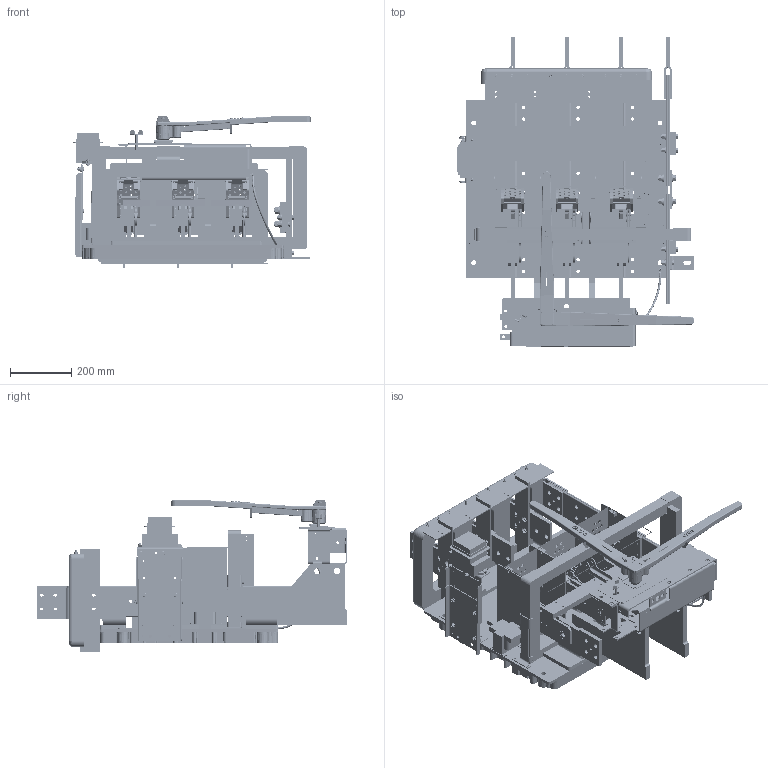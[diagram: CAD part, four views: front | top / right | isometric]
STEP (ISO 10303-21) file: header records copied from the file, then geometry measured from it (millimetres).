
FILE_DESCRIPTION(/* description */ (''),/* implementation_level */ '2;1');
FILE_NAME(/* name */ 'H:\switches\3d-templates\catalog-switches-iges-files\CATALOG-VLB3410AG60.stp',/* time_stamp */ '2022-03-15T16:02:12-05:00',/* author */ ('MKingston'),/* organization */ (''),/* preprocessor_version */ 'ST-DEVELOPER v18.1',/* originating_system */ 'Autodesk Inventor 2022',/* authorisation */ '');
FILE_SCHEMA (('AUTOMOTIVE_DESIGN { 1 0 10303 214 3 1 1 }'));
Products named in the file (108): catalog-vlb3410; 277-bf; 669-DB; 669-EB; 669-cb; CATALOG-57-qj-arc-chute-assy; 50-QLX; 50-QRX; 363-da; 363-da_MIR; 57-QJT; 57-QJB; 57-QJS; 57-QJSB; 57-QJST; ANSI B18.6.3 - 8-32 UNC - 3; ANSI B18.2.2 - 8 - 32; ANSI B18.6.4 - No. 8 - 32 - 3/8; CATALOG-2000amp-blade-assy; 69-AL; 69-AR; 67-fc3; 69-gc3; 67-j; 69-M; ANSI/ASME B18.7 - T 0.252 x 17/32; ANSI/ASME B18.7 - T 0.188 x 17/32; 235-b; vlb-interpole-right-side-assy; vlb-interpole-assy; 256-b; 178-b; 178-c; 256-d; 256-c; 230-a; 246-f; 2000-VLB-NEUTRAL; 675-a; 677-d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
Assembly tree (237 placements, depth 4):
  catalog-vlb3410
    277-bf
    669-DB  x3
    669-EB  x3
    669-cb  x3
    CATALOG-57-qj-arc-chute-assy  x3
      50-QLX
      50-QRX
      363-da
      363-da_MIR
      57-QJT
      57-QJB
      57-QJS
      57-QJSB
      57-QJST
      ANSI B18.6.3 - 8-32 UNC - 3
      ANSI B18.2.2 - 8 - 32
      ANSI B18.6.4 - No. 8 - 32 - 3/8
    CATALOG-2000amp-blade-assy  x3
      69-AL
      69-AR
      67-fc3
      69-gc3
      67-j
      69-M
      ANSI/ASME B18.7 - T 0.252 x 17/32
      ANSI/ASME B18.7 - T 0.188 x 17/32
    235-b
    vlb-interpole-right-side-assy  x2
      256-b
      178-b
      178-c
    vlb-interpole-assy  x2
      256-b
      178-b
      178-c
    256-d
    256-c
    230-a
    246-f  x2
    2000-VLB-NEUTRAL
      675-a
      675-ca
      677-d  x2
      676-R  x4
      678-r
      675-ef  x2
      Bolted Connection
        ASTM F436 - 1/2, CW  x8
        ANSI B18.2.1 - 1/2-13 UNC - 2, HCSI  x4
        ASME B18.21.1 - 1/2, RHSLW  x4
        AS 2465 - 1/2  UNC  x4
      Bolted Connection_1
        ANSI B18.3 - 3/8-16 UNC x 1.75, HSFCHCSI
        ANSI B18.22.1 - 3/8 - narrow - Type A
        ANSI B18.21.1 - 0.375
        ANSI B18.2.2 - 3/8 - 16, HNI
      Bolted Connection_2
        ASTM F436 - 3/8, CW  x3
        ANSI B18.2.1 - 3/8-16 UNC - 2, HCSI  x3
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Bounding box: 775.41 x 1014.7 x 494.45 mm (x, y, z)
Volume: 33261887.3 mm3; surface area: 6606884.9 mm2
Topology: 320 solids, 322 shells, 9153 faces, 23132 edges, 14972 vertices
Faces by surface type: plane 4661, cylinder 2537, cone 1193, bspline 466, torus 244, sphere 52
Full cylindrical faces by diameter (mm): 1.702 x8, 3.175 x4, 3.302 x8, 3.581 x4, 3.683 x8, 3.759 x12, 3.81 x9, 3.962 x11, 4.089 x4, 4.166 x26, 4.191 x9, 4.293 x9, 4.305 x42, 4.366 x2, 4.496 x24, 4.572 x9, 4.653 x4, 4.762 x4, 4.775 x11, 4.801 x8, 4.826 x2, 4.902 x14, 4.915 x24, 4.953 x4, 4.978 x9, 5.08 x2, 5.462 x4, 5.537 x5, 5.556 x5, 5.563 x4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
Entity records: 148159 total; most frequent: CARTESIAN_POINT 36407, DIRECTION 22465, ORIENTED_EDGE 22138, EDGE_CURVE 11080, AXIS2_PLACEMENT_3D 7997, VERTEX_POINT 7178, LINE 6471, VECTOR 6471
